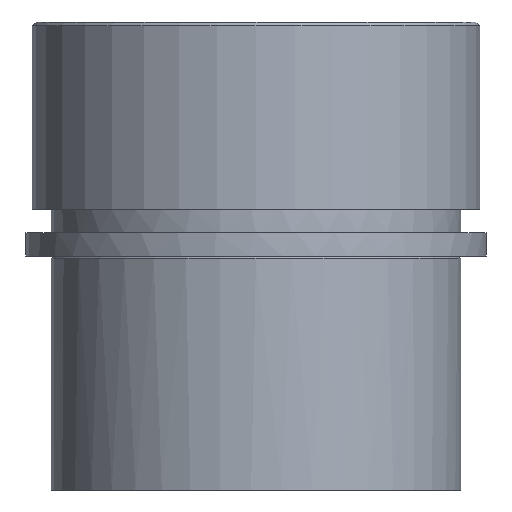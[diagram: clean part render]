
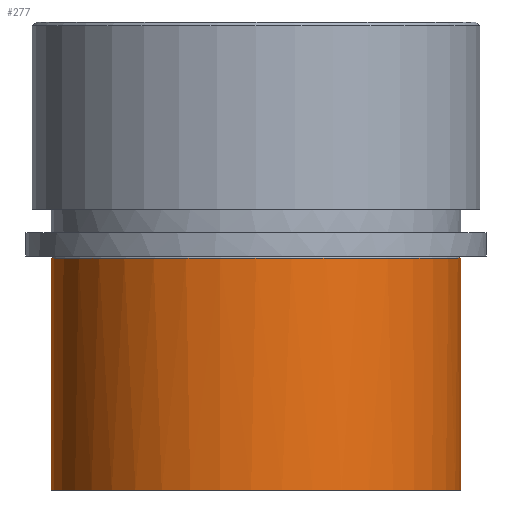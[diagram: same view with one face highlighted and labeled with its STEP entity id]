
A CAD part, front view. The second image highlights one B-rep face of the part: STEP entity #277.
In plain terms, the highlighted cylindrical face has radius 52.5 mm (diameter 105 mm), a partial arc.
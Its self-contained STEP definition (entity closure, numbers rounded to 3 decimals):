
#109=CARTESIAN_POINT('Control Point',(-52.5,0.,-60.)) ;
#110=CARTESIAN_POINT('Control Point',(-52.5,-4.969,-60.)) ;
#111=CARTESIAN_POINT('Control Point',(-51.912,-9.939,-60.)) ;
#112=CARTESIAN_POINT('Control Point',(-50.736,-14.816,-60.)) ;
#113=CARTESIAN_POINT('Control Point',(-47.252,-24.198,-60.)) ;
#114=CARTESIAN_POINT('Control Point',(-41.675,-32.509,-60.)) ;
#115=CARTESIAN_POINT('Control Point',(-38.405,-36.313,-60.)) ;
#116=CARTESIAN_POINT('Control Point',(-31.028,-43.077,-60.)) ;
#117=CARTESIAN_POINT('Control Point',(-22.276,-47.931,-60.)) ;
#118=CARTESIAN_POINT('Control Point',(-17.632,-49.827,-60.)) ;
#119=CARTESIAN_POINT('Control Point',(-7.983,-52.484,-60.)) ;
#120=CARTESIAN_POINT('Control Point',(2.02,-52.816,-60.)) ;
#121=CARTESIAN_POINT('Control Point',(7.018,-52.387,-60.)) ;
#122=CARTESIAN_POINT('Control Point',(16.818,-50.354,-60.)) ;
#123=CARTESIAN_POINT('Control Point',(25.873,-46.09,-60.)) ;
#124=CARTESIAN_POINT('Control Point',(30.126,-43.429,-60.)) ;
#125=CARTESIAN_POINT('Control Point',(37.921,-37.153,-60.)) ;
#126=CARTESIAN_POINT('Control Point',(44.037,-29.23,-60.)) ;
#127=CARTESIAN_POINT('Control Point',(46.61,-24.923,-60.)) ;
#128=CARTESIAN_POINT('Control Point',(49.949,-17.439,-60.)) ;
#129=CARTESIAN_POINT('Control Point',(51.782,-9.485,-60.)) ;
#130=CARTESIAN_POINT('Control Point',(52.261,-6.339,-60.)) ;
#131=CARTESIAN_POINT('Control Point',(52.5,-3.17,-60.)) ;
#132=CARTESIAN_POINT('Control Point',(52.5,0.,-60.)) ;
#133=CARTESIAN_POINT('Vertex',(-52.5,0.,-60.)) ;
#135=CARTESIAN_POINT('Vertex',(52.5,0.,-60.)) ;
#247=CARTESIAN_POINT('Axis2P3D Location',(0.,0.,60.)) ;
#252=CARTESIAN_POINT('Line Origine',(52.5,0.,60.)) ;
#256=CARTESIAN_POINT('Vertex',(52.5,0.,-0.6)) ;
#259=CARTESIAN_POINT('Axis2P3D Location',(0.,0.,-0.6)) ;
#263=CARTESIAN_POINT('Vertex',(-52.5,0.,-0.6)) ;
#266=CARTESIAN_POINT('Line Origine',(-52.5,0.,60.)) ;
#248=DIRECTION('Axis2P3D Direction',(0.,0.,-1.)) ;
#249=DIRECTION('Axis2P3D XDirection',(1.,0.,0.)) ;
#253=DIRECTION('Vector Direction',(0.,0.,-1.)) ;
#260=DIRECTION('Axis2P3D Direction',(0.,0.,-1.)) ;
#267=DIRECTION('Vector Direction',(0.,0.,-1.)) ;
#250=AXIS2_PLACEMENT_3D('Cylinder Axis2P3D',#247,#248,#249) ;
#261=AXIS2_PLACEMENT_3D('Circle Axis2P3D',#259,#260,$) ;
#272=ORIENTED_EDGE('',*,*,#258,.T.) ;
#273=ORIENTED_EDGE('',*,*,#265,.F.) ;
#274=ORIENTED_EDGE('',*,*,#270,.T.) ;
#275=ORIENTED_EDGE('',*,*,#137,.T.) ;
#254=VECTOR('Line Direction',#253,1.) ;
#268=VECTOR('Line Direction',#267,1.) ;
#277=ADVANCED_FACE('735-80',(#276),#251,.T.) ;
#108=B_SPLINE_CURVE_WITH_KNOTS('',5,(#109,#110,#111,#112,#113,#114,#115,#116,#117,#118,#119,#120,#121,#122,#123,#124,#125,#126,#127,#128,#129,#130,#131,#132),.UNSPECIFIED.,.F.,.U.,(6,3,3,3,3,3,3,6),(0.,35.139,70.279,105.418,140.558,175.697,210.836,233.249),.UNSPECIFIED.) ;
#262=CIRCLE('generated circle',#261,52.5) ;
#251=CYLINDRICAL_SURFACE('generated cylinder',#250,52.5) ;
#137=EDGE_CURVE('',#134,#136,#108,.T.) ;
#258=EDGE_CURVE('',#136,#257,#255,.F.) ;
#265=EDGE_CURVE('',#264,#257,#262,.F.) ;
#270=EDGE_CURVE('',#264,#134,#269,.T.) ;
#271=EDGE_LOOP('',(#272,#273,#274,#275)) ;
#276=FACE_OUTER_BOUND('',#271,.T.) ;
#255=LINE('Line',#252,#254) ;
#269=LINE('Line',#266,#268) ;
#134=VERTEX_POINT('',#133) ;
#136=VERTEX_POINT('',#135) ;
#257=VERTEX_POINT('',#256) ;
#264=VERTEX_POINT('',#263) ;
